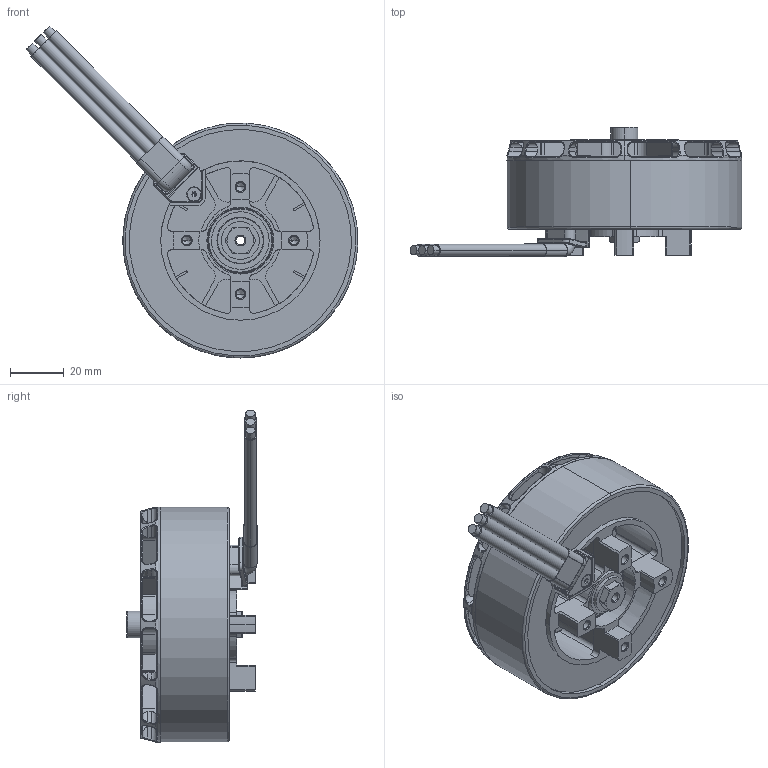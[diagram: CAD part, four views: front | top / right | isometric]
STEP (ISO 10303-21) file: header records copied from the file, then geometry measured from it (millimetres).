
FILE_DESCRIPTION (( 'STEP AP203' ), '1' );
FILE_NAME ('HV-8120萇儂3D-勤俋-230713.STEP', '2023-07-13T03:28:56', ( '' ), ( '' ), 'SwSTEP 2.0', 'SolidWorks 2021', '' );
FILE_SCHEMA (( 'CONFIG_CONTROL_DESIGN' ));
Length unit declared in the file: millimetre
Products named in the file (1): HV-8120萇儂3D-勤俋-230713
Bounding box: 123.82 x 48.55 x 123.96 mm (x, y, z)
Volume: 112602.7 mm3; surface area: 62675.4 mm2
Topology: 12 solids, 16 shells, 2285 faces, 6296 edges, 4069 vertices
Faces by surface type: plane 1162, cylinder 528, bspline 350, cone 203, torus 42
Entity records: 101491 total; most frequent: CARTESIAN_POINT 45519, ORIENTED_EDGE 12568, DIRECTION 10453, EDGE_CURVE 6284, VERTEX_POINT 4069, LINE 3487, VECTOR 3487, AXIS2_PLACEMENT_3D 3483
